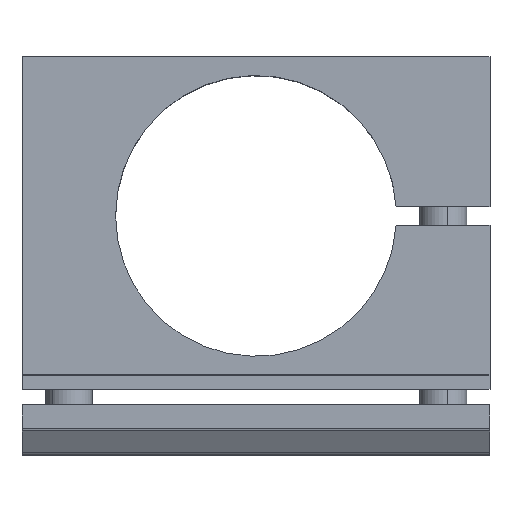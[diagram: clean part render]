
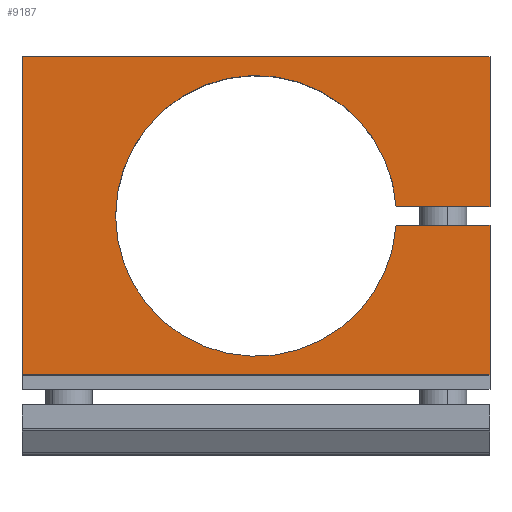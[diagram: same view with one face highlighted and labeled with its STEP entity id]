
A CAD part, top view. The second image highlights one B-rep face of the part: STEP entity #9187.
In plain terms, the highlighted planar face has unit normal (0, 0, 1).
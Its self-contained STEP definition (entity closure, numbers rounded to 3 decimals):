
#20 = CARTESIAN_POINT ( 'NONE',  ( -60.026, 16.978, 30.65 ) ) ;
#50 = VERTEX_POINT ( 'NONE', #3064 ) ;
#83 = ORIENTED_EDGE ( 'NONE', *, *, #2558, .F. ) ;
#220 = LINE ( 'NONE', #7313, #8629 ) ;
#412 = VECTOR ( 'NONE', #2109, 1000. ) ;
#528 = CARTESIAN_POINT ( 'NONE',  ( -35.026, 17.978, 30.65 ) ) ;
#580 = DIRECTION ( 'NONE',  ( -1., 0., 0. ) ) ;
#745 = CARTESIAN_POINT ( 'NONE',  ( -45.06, 15.978, 30.65 ) ) ;
#927 = ORIENTED_EDGE ( 'NONE', *, *, #9139, .F. ) ;
#1151 = EDGE_CURVE ( 'NONE', #50, #6668, #8994, .T. ) ;
#1418 = DIRECTION ( 'NONE',  ( 0., 0., 1. ) ) ;
#1656 = VERTEX_POINT ( 'NONE', #7455 ) ;
#2109 = DIRECTION ( 'NONE',  ( 0., 1., 0. ) ) ;
#2336 = DIRECTION ( 'NONE',  ( 0., -1., 0. ) ) ;
#2348 = LINE ( 'NONE', #9394, #412 ) ;
#2397 = ORIENTED_EDGE ( 'NONE', *, *, #1151, .F. ) ;
#2558 = EDGE_CURVE ( 'NONE', #8167, #5311, #5990, .T. ) ;
#2664 = VECTOR ( 'NONE', #3969, 1000. ) ;
#2868 = ORIENTED_EDGE ( 'NONE', *, *, #5015, .F. ) ;
#2879 = VERTEX_POINT ( 'NONE', #6426 ) ;
#2931 = EDGE_CURVE ( 'NONE', #5529, #8481, #6210, .T. ) ;
#3064 = CARTESIAN_POINT ( 'NONE',  ( -35.026, -0.022, 30.65 ) ) ;
#3784 = CARTESIAN_POINT ( 'NONE',  ( 0., 0., 30.65 ) ) ;
#3969 = DIRECTION ( 'NONE',  ( 1., 0., 0. ) ) ;
#4031 = CARTESIAN_POINT ( 'NONE',  ( -45.06, 15.978, 30.65 ) ) ;
#4158 = ORIENTED_EDGE ( 'NONE', *, *, #5272, .F. ) ;
#4237 = CARTESIAN_POINT ( 'NONE',  ( -35.026, 33.978, 30.65 ) ) ;
#4257 = EDGE_CURVE ( 'NONE', #1656, #5529, #220, .T. ) ;
#4346 = CARTESIAN_POINT ( 'NONE',  ( -35.026, 33.978, 30.65 ) ) ;
#4626 = ORIENTED_EDGE ( 'NONE', *, *, #8951, .F. ) ;
#5015 = EDGE_CURVE ( 'NONE', #5311, #50, #8820, .T. ) ;
#5087 = VECTOR ( 'NONE', #7979, 1000. ) ;
#5111 = VECTOR ( 'NONE', #5860, 1000. ) ;
#5128 = DIRECTION ( 'NONE',  ( 1., 0., 0. ) ) ;
#5272 = EDGE_CURVE ( 'NONE', #8481, #2879, #8611, .T. ) ;
#5311 = VERTEX_POINT ( 'NONE', #7165 ) ;
#5339 = FACE_OUTER_BOUND ( 'NONE', #6715, .T. ) ;
#5376 = DIRECTION ( 'NONE',  ( 0., 0., -1. ) ) ;
#5529 = VERTEX_POINT ( 'NONE', #7412 ) ;
#5690 = CARTESIAN_POINT ( 'NONE',  ( -35.026, 17.978, 30.65 ) ) ;
#5860 = DIRECTION ( 'NONE',  ( -1., 0., 0. ) ) ;
#5990 = LINE ( 'NONE', #4031, #2664 ) ;
#6210 = LINE ( 'NONE', #4237, #5087 ) ;
#6426 = CARTESIAN_POINT ( 'NONE',  ( -45.06, 17.978, 30.65 ) ) ;
#6668 = VERTEX_POINT ( 'NONE', #8235 ) ;
#6715 = EDGE_LOOP ( 'NONE', ( #83, #927, #4158, #7139, #8241, #4626, #2397, #2868 ) ) ;
#6835 = VECTOR ( 'NONE', #2336, 1000. ) ;
#6849 = VECTOR ( 'NONE', #580, 1000. ) ;
#7139 = ORIENTED_EDGE ( 'NONE', *, *, #2931, .F. ) ;
#7165 = CARTESIAN_POINT ( 'NONE',  ( -35.026, 15.978, 30.65 ) ) ;
#7313 = CARTESIAN_POINT ( 'NONE',  ( -85.026, 33.978, 30.65 ) ) ;
#7412 = CARTESIAN_POINT ( 'NONE',  ( -35.026, 33.978, 30.65 ) ) ;
#7455 = CARTESIAN_POINT ( 'NONE',  ( -85.026, 33.978, 30.65 ) ) ;
#7979 = DIRECTION ( 'NONE',  ( 0., -1., 0. ) ) ;
#8098 = DIRECTION ( 'NONE',  ( 1., 0., 0. ) ) ;
#8167 = VERTEX_POINT ( 'NONE', #745 ) ;
#8199 = AXIS2_PLACEMENT_3D ( 'NONE', #20, #1418, #5128 ) ;
#8235 = CARTESIAN_POINT ( 'NONE',  ( -85.026, -0.022, 30.65 ) ) ;
#8241 = ORIENTED_EDGE ( 'NONE', *, *, #4257, .F. ) ;
#8245 = PLANE ( 'NONE',  #8719 ) ;
#8481 = VERTEX_POINT ( 'NONE', #5690 ) ;
#8611 = LINE ( 'NONE', #528, #6849 ) ;
#8629 = VECTOR ( 'NONE', #8098, 1000. ) ;
#8719 = AXIS2_PLACEMENT_3D ( 'NONE', #3784, #5376, #8991 ) ;
#8820 = LINE ( 'NONE', #4346, #6835 ) ;
#8881 = CARTESIAN_POINT ( 'NONE',  ( -35.026, -0.022, 30.65 ) ) ;
#8904 = CIRCLE ( 'NONE', #8199, 15. ) ;
#8951 = EDGE_CURVE ( 'NONE', #6668, #1656, #2348, .T. ) ;
#8991 = DIRECTION ( 'NONE',  ( -1., 0., 0. ) ) ;
#8994 = LINE ( 'NONE', #8881, #5111 ) ;
#9139 = EDGE_CURVE ( 'NONE', #2879, #8167, #8904, .T. ) ;
#9187 = ADVANCED_FACE ( 'NONE', ( #5339 ), #8245, .F. ) ;
#9394 = CARTESIAN_POINT ( 'NONE',  ( -85.026, -1.522, 30.65 ) ) ;
